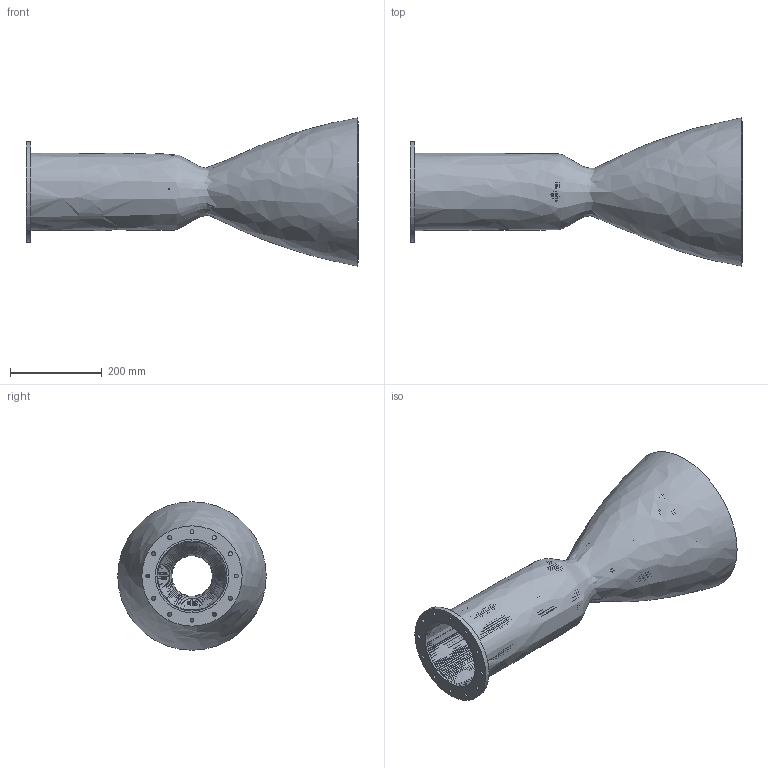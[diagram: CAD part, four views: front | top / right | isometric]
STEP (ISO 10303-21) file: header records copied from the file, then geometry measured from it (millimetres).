
FILE_DESCRIPTION(('Open CASCADE Model'),'2;1');
FILE_NAME('Open CASCADE Shape Model','2026-11-17T23:00:22',('Author'),( 'Open CASCADE'),'Open CASCADE STEP processor 7.9','Open CASCADE 7.9' ,'Unknown');
FILE_SCHEMA(('AUTOMOTIVE_DESIGN { 1 0 10303 214 1 1 1 1 }'));
Length unit declared in the file: millimetre
Products named in the file (3): thrust_chamber; liner; jacket
Assembly tree (2 placements, depth 2):
  thrust_chamber
    liner
    jacket
Bounding box: 722.44 x 322.93 x 322.93 mm (x, y, z)
Volume: 2095885.2 mm3; surface area: 2135294 mm2
Topology: 2 solids, 2 shells, 522 faces, 1254 edges, 834 vertices
Faces by surface type: plane 303, revolution 104, cone 102, cylinder 13
Full cylindrical faces by diameter (mm): 8.4 x12, 218.298 x1
Entity records: 280020 total; most frequent: CARTESIAN_POINT 256872, DIRECTION 3334, ORIENTED_EDGE 2508, PCURVE 2508, DEFINITIONAL_REPRESENTATION 2508, LINE 1793, VECTOR 1793, B_SPLINE_CURVE_WITH_KNOTS 1711
